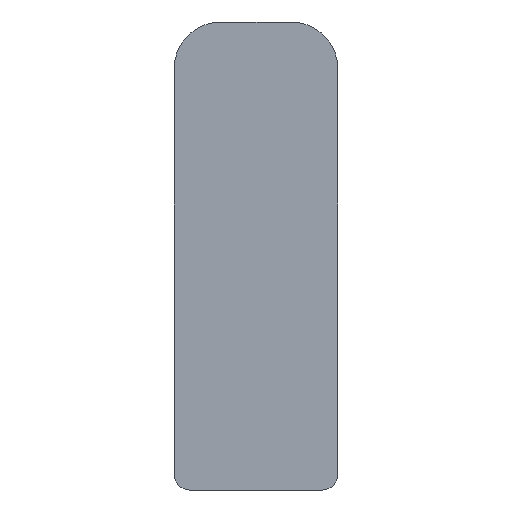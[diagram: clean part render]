
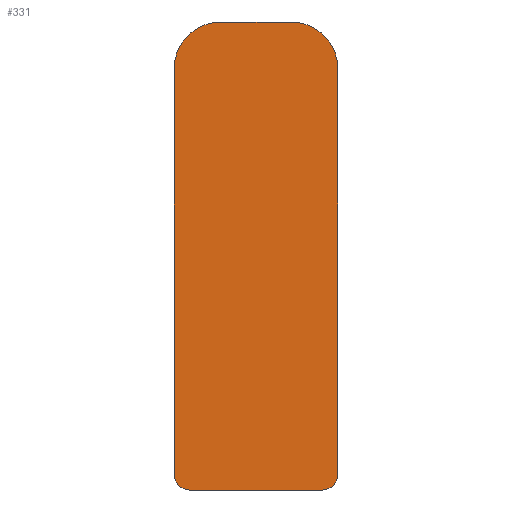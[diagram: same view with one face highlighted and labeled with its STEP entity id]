
A CAD part, left-side view. The second image highlights one B-rep face of the part: STEP entity #331.
In plain terms, the highlighted planar face has unit normal (-1, 0, 0).
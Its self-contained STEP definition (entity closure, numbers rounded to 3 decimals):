
#5 = CIRCLE ( 'NONE', #118, 1. ) ;
#7 = ORIENTED_EDGE ( 'NONE', *, *, #145, .T. ) ;
#12 = ORIENTED_EDGE ( 'NONE', *, *, #148, .T. ) ;
#19 = VECTOR ( 'NONE', #324, 1000. ) ;
#20 = LINE ( 'NONE', #325, #19 ) ;
#24 = CIRCLE ( 'NONE', #120, 3. ) ;
#33 = EDGE_LOOP ( 'NONE', ( #74, #75, #76, #77, #78, #79, #7, #12 ) ) ;
#38 = VECTOR ( 'NONE', #246, 1000. ) ;
#39 = LINE ( 'NONE', #275, #38 ) ;
#74 = ORIENTED_EDGE ( 'NONE', *, *, #135, .T. ) ;
#75 = ORIENTED_EDGE ( 'NONE', *, *, #122, .T. ) ;
#76 = ORIENTED_EDGE ( 'NONE', *, *, #125, .T. ) ;
#77 = ORIENTED_EDGE ( 'NONE', *, *, #128, .T. ) ;
#78 = ORIENTED_EDGE ( 'NONE', *, *, #131, .T. ) ;
#79 = ORIENTED_EDGE ( 'NONE', *, *, #142, .T. ) ;
#98 = FACE_OUTER_BOUND ( 'NONE', #33, .T. ) ;
#107 = VECTOR ( 'NONE', #268, 1000. ) ;
#109 = LINE ( 'NONE', #269, #107 ) ;
#111 = CIRCLE ( 'NONE', #170, 1. ) ;
#116 = AXIS2_PLACEMENT_3D ( 'NONE', #302, #300, #299 ) ;
#118 = AXIS2_PLACEMENT_3D ( 'NONE', #315, #314, #313 ) ;
#120 = AXIS2_PLACEMENT_3D ( 'NONE', #216, #215, #211 ) ;
#122 = EDGE_CURVE ( 'NONE', #326, #317, #39, .T. ) ;
#125 = EDGE_CURVE ( 'NONE', #317, #281, #24, .T. ) ;
#128 = EDGE_CURVE ( 'NONE', #281, #319, #20, .T. ) ;
#131 = EDGE_CURVE ( 'NONE', #319, #301, #5, .T. ) ;
#135 = EDGE_CURVE ( 'NONE', #307, #326, #340, .T. ) ;
#142 = EDGE_CURVE ( 'NONE', #301, #320, #149, .T. ) ;
#145 = EDGE_CURVE ( 'NONE', #320, #287, #111, .T. ) ;
#147 = VECTOR ( 'NONE', #283, 1000. ) ;
#148 = EDGE_CURVE ( 'NONE', #287, #307, #109, .T. ) ;
#149 = LINE ( 'NONE', #284, #147 ) ;
#165 = AXIS2_PLACEMENT_3D ( 'NONE', #232, #231, #230 ) ;
#170 = AXIS2_PLACEMENT_3D ( 'NONE', #274, #273, #272 ) ;
#211 = DIRECTION ( 'NONE',  ( 0., 0., -1. ) ) ;
#215 = DIRECTION ( 'NONE',  ( -1., 0., 0. ) ) ;
#216 = CARTESIAN_POINT ( 'NONE',  ( -331.25, 2.25, 27. ) ) ;
#230 = DIRECTION ( 'NONE',  ( 0., 0., 1. ) ) ;
#231 = DIRECTION ( 'NONE',  ( -1., 0., 0. ) ) ;
#232 = CARTESIAN_POINT ( 'NONE',  ( -331.25, -2.25, 27. ) ) ;
#233 = PLANE ( 'NONE',  #165 ) ;
#243 = CARTESIAN_POINT ( 'NONE',  ( -331.25, -2.25, 30. ) ) ;
#244 = CARTESIAN_POINT ( 'NONE',  ( -331.25, -4.25, 0. ) ) ;
#245 = CARTESIAN_POINT ( 'NONE',  ( -331.25, 5.25, 1. ) ) ;
#246 = DIRECTION ( 'NONE',  ( 0., 1., 0. ) ) ;
#247 = CARTESIAN_POINT ( 'NONE',  ( -331.25, 2.25, 30. ) ) ;
#249 = CARTESIAN_POINT ( 'NONE',  ( -331.25, -5.25, 27. ) ) ;
#251 = CARTESIAN_POINT ( 'NONE',  ( -331.25, 4.25, 0. ) ) ;
#256 = CARTESIAN_POINT ( 'NONE',  ( -331.25, -5.25, 1. ) ) ;
#259 = CARTESIAN_POINT ( 'NONE',  ( -331.25, 5.25, 27. ) ) ;
#268 = DIRECTION ( 'NONE',  ( 0., 0., 1. ) ) ;
#269 = CARTESIAN_POINT ( 'NONE',  ( -331.25, -5.25, 1. ) ) ;
#272 = DIRECTION ( 'NONE',  ( 0., 0., -1. ) ) ;
#273 = DIRECTION ( 'NONE',  ( -1., 0., 0. ) ) ;
#274 = CARTESIAN_POINT ( 'NONE',  ( -331.25, -4.25, 1. ) ) ;
#275 = CARTESIAN_POINT ( 'NONE',  ( -331.25, -2.25, 30. ) ) ;
#281 = VERTEX_POINT ( 'NONE', #259 ) ;
#283 = DIRECTION ( 'NONE',  ( 0., -1., 0. ) ) ;
#284 = CARTESIAN_POINT ( 'NONE',  ( -331.25, -4.25, 0. ) ) ;
#287 = VERTEX_POINT ( 'NONE', #256 ) ;
#299 = DIRECTION ( 'NONE',  ( 0., 0., 1. ) ) ;
#300 = DIRECTION ( 'NONE',  ( -1., 0., 0. ) ) ;
#301 = VERTEX_POINT ( 'NONE', #251 ) ;
#302 = CARTESIAN_POINT ( 'NONE',  ( -331.25, -2.25, 27. ) ) ;
#307 = VERTEX_POINT ( 'NONE', #249 ) ;
#313 = DIRECTION ( 'NONE',  ( 0., 0., -1. ) ) ;
#314 = DIRECTION ( 'NONE',  ( -1., 0., 0. ) ) ;
#315 = CARTESIAN_POINT ( 'NONE',  ( -331.25, 4.25, 1. ) ) ;
#317 = VERTEX_POINT ( 'NONE', #247 ) ;
#319 = VERTEX_POINT ( 'NONE', #245 ) ;
#320 = VERTEX_POINT ( 'NONE', #244 ) ;
#324 = DIRECTION ( 'NONE',  ( 0., 0., -1. ) ) ;
#325 = CARTESIAN_POINT ( 'NONE',  ( -331.25, 5.25, 1. ) ) ;
#326 = VERTEX_POINT ( 'NONE', #243 ) ;
#331 = ADVANCED_FACE ( 'NONE', ( #98 ), #233, .T. ) ;
#340 = CIRCLE ( 'NONE', #116, 3. ) ;
